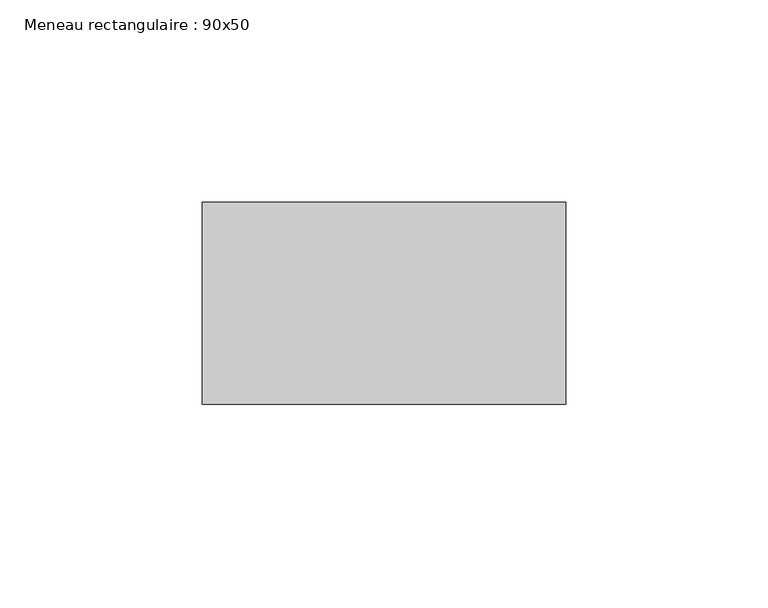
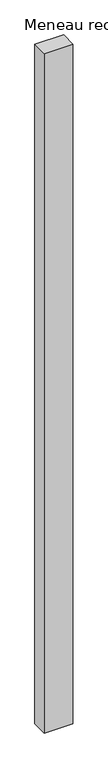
"""IFC4 building model written with IfcOpenShell, lengths in millimetres: member geometry, Meneau rectangulaire : 90x50."""

from ifc_helpers import new_model, si_unit, frame, origin, place, context, project, spatial, polyline, outline, extrude, source, transform, mapped, element, save


def meneau_rectangulaire_90x50_f99fdb10(model_context):
    return source(origin(), model_context, "Body", "SweptSolid", [
        extrude(outline(polyline([(45.0, 0.0), (45.0, -50.0), (-45.0, -50.0), (-45.0, 0.0), (45.0, 0.0)])), frame((0.0, 0.0, -2260.0), z_axis=(0.0, 0.0, 1.0), x_axis=(1.0, 0.0, 0.0)), (0.0, 0.0, 1.0), 2260.0),
    ])


if __name__ == "__main__":
    model = new_model("IFC4")
    model_context = context("Model", 3, world=origin())
    ifc_project = project(units=[si_unit("LENGTHUNIT", "METRE", prefix="MILLI")], contexts=[model_context])
    site = spatial("IfcSite", under=ifc_project)
    building = spatial("IfcBuilding", under=site)
    placement = place(None, origin())
    meneau_rectangulaire_90x50_shape = meneau_rectangulaire_90x50_f99fdb10(model_context)
    element("IfcMember", 1, ObjectType="Meneau rectangulaire : 90x50", at=placement, inside=building, context=model_context, shape_type="MappedRepresentation", body=[
        mapped(meneau_rectangulaire_90x50_shape, transform((0.0, 0.0, 0.0), x_axis=(1.0, 0.0, 0.0), y_axis=(0.0, 1.0, 0.0), z_axis=(0.0, 0.0, 1.0))),
    ])
    save(model, "model.ifc")
